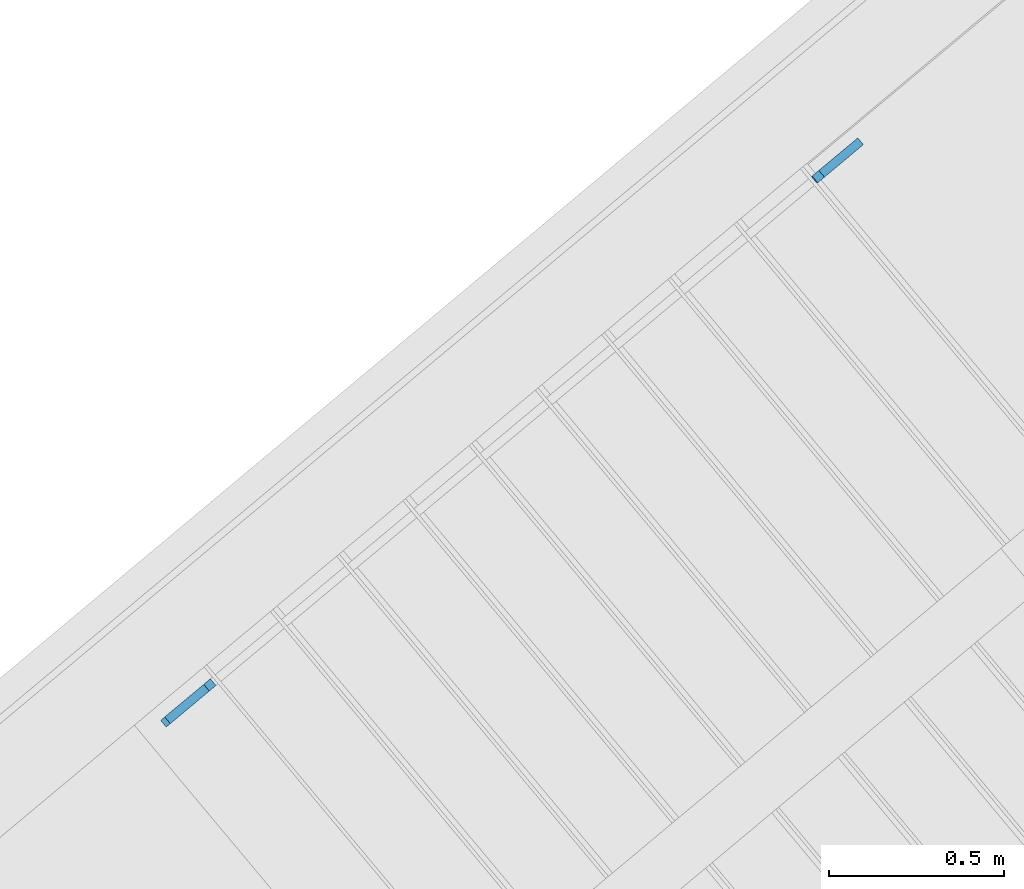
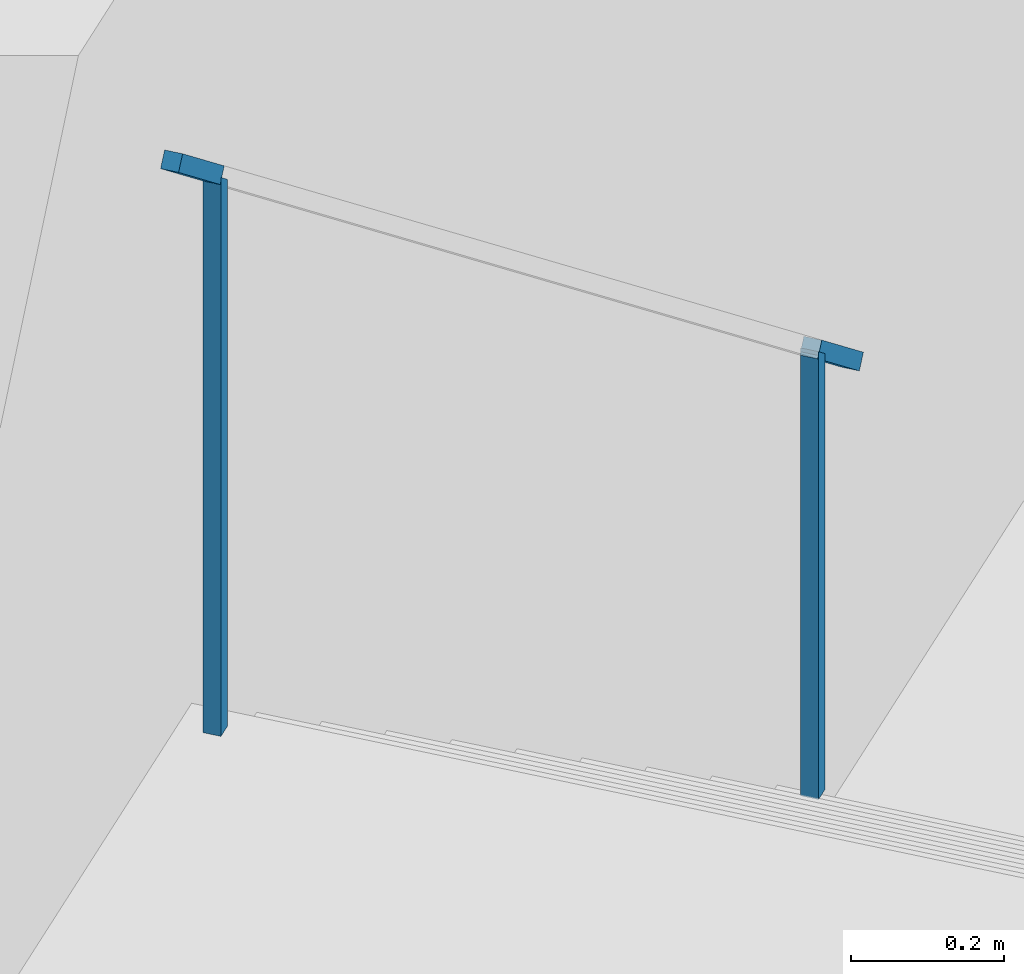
# One storey, part 13 of 14: 4 building element parts, 1 element without a shape of its own.
"""IFC4 building model written with IfcOpenShell, lengths in metres."""

from ifc_helpers import new_model, entity, si_unit, converted_unit, derived_unit, direction, frame, origin_with_axes, place, context, subcontext, project, spatial, polygons, material, type_object, element, aggregate, save


model = new_model("IFC4")

# Units and contexts
model_context = context("Model", 3, precision=1e-05, world=origin_with_axes(), true_north=direction((0.0, 1.0)))
body_context = subcontext(model_context, "Body", "Model", "MODEL_VIEW")
ifc_project = project(units=[si_unit("LENGTHUNIT", "METRE"), si_unit("AREAUNIT", "SQUARE_METRE"), si_unit("VOLUMEUNIT", "CUBIC_METRE"), converted_unit("PLANEANGLEUNIT", "DEGREE", entity("IfcPlaneAngleMeasure", 0.0174532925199), si_unit("PLANEANGLEUNIT", "RADIAN"), dimensions=[0, 0, 0, 0, 0, 0, 0]), converted_unit("TIMEUNIT", "Year", entity("IfcTimeMeasure", 31556926.0), si_unit("TIMEUNIT", "SECOND"), dimensions=[0, 0, 1, 0, 0, 0, 0]), si_unit("MASSUNIT", "GRAM", prefix="KILO"), si_unit("THERMODYNAMICTEMPERATUREUNIT", "DEGREE_CELSIUS"), si_unit("LUMINOUSINTENSITYUNIT", "LUMEN"), si_unit("ENERGYUNIT", "JOULE", prefix="MEGA"), derived_unit("THERMALCONDUCTANCEUNIT", [(si_unit("POWERUNIT", "WATT"), 1), (si_unit("LENGTHUNIT", "METRE"), -1), (si_unit("THERMODYNAMICTEMPERATUREUNIT", "KELVIN"), -1)]), derived_unit("SPECIFICHEATCAPACITYUNIT", [(si_unit("ENERGYUNIT", "JOULE"), 1), (si_unit("MASSUNIT", "GRAM", prefix="KILO"), -1), (si_unit("THERMODYNAMICTEMPERATUREUNIT", "KELVIN"), -1)]), derived_unit("MASSDENSITYUNIT", [(si_unit("MASSUNIT", "GRAM", prefix="KILO"), 1), (si_unit("VOLUMEUNIT", "CUBIC_METRE"), -1)])], contexts=[model_context])

# Site, building, storey, space
site_placement = place(None, frame((-0.00153261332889, -0.00661245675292, 0.0), z_axis=(0.0, 0.0, 1.0), x_axis=(1.0, 0.0, 0.0)))
site = spatial("IfcSite", under=ifc_project, at=site_placement, Name="Gelände", CompositionType="ELEMENT")
building_placement = place(site_placement, origin_with_axes())
building = spatial("IfcBuilding", under=site, at=building_placement, Name="Gebäude", CompositionType="ELEMENT")
storey_placement = place(building_placement, frame((0.0, 0.0, -3.3), z_axis=(0.0, 0.0, 1.0), x_axis=(1.0, 0.0, 0.0)))
storey = spatial("IfcBuildingStorey", under=building, at=storey_placement, Name="UG1", CompositionType="ELEMENT", Elevation=-3.3)
space_placement = place(storey_placement, frame((-1.16790631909, 24.7563892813, 0.0), z_axis=(0.0, 0.0, 1.0), x_axis=(0.641170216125, -0.767398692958, 0.0)))
space = spatial("IfcSpace", under=storey, at=space_placement, Name="Beschichtung", CompositionType="ELEMENT", PredefinedType="NOTDEFINED")

# Railing, building element parts
railing_type = type_object("IfcRailingType", Name="Geländerart", PredefinedType="NOTDEFINED")
railing_placement = place(space_placement, frame((-7.15429375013e-05, 0.255237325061, 0.0), z_axis=(0.0, 0.0, 1.0), x_axis=(0.641170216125, 0.767398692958, 0.0)))
railing = element("IfcRailing", 1, at=railing_placement, inside=space, type_object=railing_type, Name="Geländer - 001", PredefinedType="NOTDEFINED")
ifc_material = material(Name="BEKLEIDUNG")
building_element_part_1_placement = place(railing_placement, origin_with_axes())
building_element_part_1 = element("IfcBuildingElementPart", 2, at=building_element_part_1_placement, material=ifc_material, Name="BEKLEIDUNG", PredefinedType="NOTDEFINED", context=body_context, shape_type="Tessellation", body=[
    polygons([(-0.181417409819, -0.200442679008, 0.176666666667), (-0.165388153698, -0.219627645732, 0.176666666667), (-0.165388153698, -0.219627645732, 0.889748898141), (-0.181417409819, -0.200442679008, 0.889748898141), (-0.162232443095, -0.184413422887, 0.176666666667), (-0.146203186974, -0.203598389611, 0.176666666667), (-0.146203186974, -0.203598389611, 0.870251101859), (-0.162232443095, -0.184413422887, 0.870251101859)], [[[1, 2, 3, 4]], [[1, 5, 6, 2]], [[2, 6, 7, 3]], [[4, 3, 7, 8]], [[5, 1, 4, 8]], [[6, 5, 8, 7]]], closed=True),
])
building_element_part_2_placement = place(railing_placement, origin_with_axes())
building_element_part_2 = element("IfcBuildingElementPart", 3, at=building_element_part_2_placement, material=ifc_material, Name="BEKLEIDUNG", PredefinedType="NOTDEFINED", context=body_context, shape_type="Tessellation", body=[
    polygons([(-0.155795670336, -0.211613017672, 0.9), (-0.167594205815, -0.221470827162, 0.880286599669), (-0.0465699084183, -0.120353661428, 0.757288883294), (-0.0347713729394, -0.110495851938, 0.777002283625), (-0.171824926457, -0.192428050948, 0.9), (-0.183623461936, -0.202285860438, 0.880286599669), (-0.0625991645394, -0.101168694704, 0.757288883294), (-0.0508006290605, -0.0913108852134, 0.777002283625)], [[[1, 2, 3, 4]], [[1, 5, 6, 2]], [[2, 6, 7, 3]], [[4, 3, 7, 8]], [[5, 1, 4, 8]], [[6, 5, 8, 7]]], closed=True),
])
building_element_part_3_placement = place(railing_placement, origin_with_axes())
building_element_part_3 = element("IfcBuildingElementPart", 4, at=building_element_part_3_placement, material=ifc_material, Name="BEKLEIDUNG", PredefinedType="NOTDEFINED", context=body_context, shape_type="Tessellation", body=[
    polygons([(-1.91973905, -1.65283001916, 1.76666666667), (-1.90370979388, -1.67201498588, 1.76666666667), (-1.90370979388, -1.67201498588, 2.65641556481), (-1.91973905, -1.65283001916, 2.65641556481), (-1.90055408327, -1.63680076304, 1.76666666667), (-1.88452482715, -1.65598572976, 1.76666666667), (-1.88452482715, -1.65598572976, 2.63691776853), (-1.90055408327, -1.63680076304, 2.63691776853)], [[[1, 2, 3, 4]], [[1, 5, 6, 2]], [[2, 6, 7, 3]], [[4, 3, 7, 8]], [[5, 1, 4, 8]], [[6, 5, 8, 7]]], closed=True),
])
building_element_part_4_placement = place(railing_placement, origin_with_axes())
building_element_part_4 = element("IfcBuildingElementPart", 5, at=building_element_part_4_placement, material=ifc_material, Name="BEKLEIDUNG", PredefinedType="NOTDEFINED", context=body_context, shape_type="Tessellation", body=[
    polygons([(-1.91014656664, -1.6448153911, 2.66666666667), (-1.92194510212, -1.65467320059, 2.64695326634), (-2.04296939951, -1.75579036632, 2.76995098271), (-2.03117086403, -1.74593255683, 2.78966438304), (-1.89411731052, -1.66400035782, 2.66666666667), (-1.90591584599, -1.67385816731, 2.64695326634), (-2.02694014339, -1.77497533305, 2.76995098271), (-2.01514160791, -1.76511752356, 2.78966438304)], [[[1, 2, 3, 4]], [[1, 5, 6, 2]], [[2, 6, 7, 3]], [[4, 3, 7, 8]], [[5, 1, 4, 8]], [[6, 5, 8, 7]]], closed=True),
])
aggregate(railing, [building_element_part_1, building_element_part_2, building_element_part_3, building_element_part_4])

save(model, "model.ifc")
